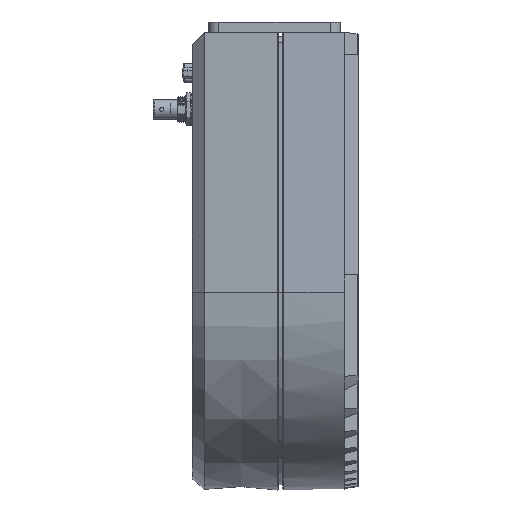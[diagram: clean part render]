
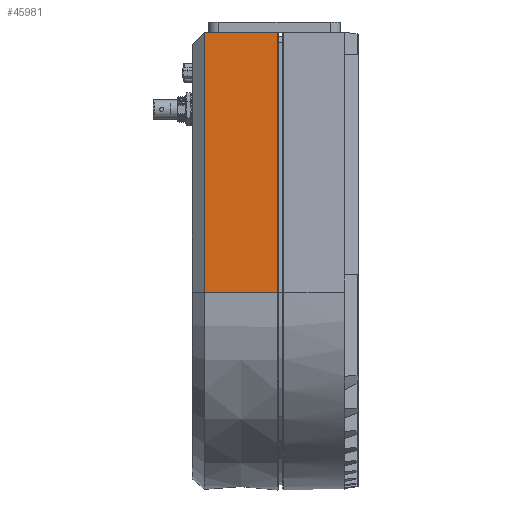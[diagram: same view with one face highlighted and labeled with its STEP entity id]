
A CAD part, left-side view. The second image highlights one B-rep face of the part: STEP entity #45981.
In plain terms, the highlighted planar face has unit normal (-1, 0.009, 0).
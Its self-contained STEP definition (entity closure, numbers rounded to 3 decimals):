
#1038 = VERTEX_POINT ( 'NONE', #4565 ) ;
#2983 = VERTEX_POINT ( 'NONE', #34796 ) ;
#4565 = CARTESIAN_POINT ( 'NONE',  ( -97.052, 76.003, 0.049 ) ) ;
#4678 = DIRECTION ( 'NONE',  ( -0.009, -1., 0. ) ) ;
#5975 = CARTESIAN_POINT ( 'NONE',  ( -97., 82., 0. ) ) ;
#6339 = ORIENTED_EDGE ( 'NONE', *, *, #38362, .T. ) ;
#7239 = ORIENTED_EDGE ( 'NONE', *, *, #16274, .T. ) ;
#7732 = LINE ( 'NONE', #29201, #12063 ) ;
#7968 = CARTESIAN_POINT ( 'NONE',  ( -97.052, 76.003, -0.002 ) ) ;
#8212 = DIRECTION ( 'NONE',  ( 0., 0., -1. ) ) ;
#11695 = ORIENTED_EDGE ( 'NONE', *, *, #42061, .F. ) ;
#11856 = EDGE_CURVE ( 'NONE', #44028, #40368, #45010, .T. ) ;
#12063 = VECTOR ( 'NONE', #14951, 1000. ) ;
#12107 = EDGE_CURVE ( 'NONE', #44028, #1038, #7732, .T. ) ;
#14053 = VERTEX_POINT ( 'NONE', #43522 ) ;
#14160 = CARTESIAN_POINT ( 'NONE',  ( -97.367, 40., 0.052 ) ) ;
#14631 = LINE ( 'NONE', #14160, #24504 ) ;
#14951 = DIRECTION ( 'NONE',  ( 0.006, 0.704, -0.71 ) ) ;
#16274 = EDGE_CURVE ( 'NONE', #2983, #40368, #14631, .T. ) ;
#16839 = DIRECTION ( 'NONE',  ( -0.009, -1., 0. ) ) ;
#18356 = CARTESIAN_POINT ( 'NONE',  ( -97., 82., -128. ) ) ;
#19629 = CARTESIAN_POINT ( 'NONE',  ( -97., 82., 0.052 ) ) ;
#20495 = ORIENTED_EDGE ( 'NONE', *, *, #11856, .F. ) ;
#22181 = DIRECTION ( 'NONE',  ( 0.009, 1., 0. ) ) ;
#24504 = VECTOR ( 'NONE', #28878, 1000. ) ;
#24649 = VECTOR ( 'NONE', #22181, 1000. ) ;
#28878 = DIRECTION ( 'NONE',  ( 0., 0., 1. ) ) ;
#29201 = CARTESIAN_POINT ( 'NONE',  ( -97.045, 76.84, -0.794 ) ) ;
#34376 = VECTOR ( 'NONE', #4678, 1000. ) ;
#34796 = CARTESIAN_POINT ( 'NONE',  ( -97.367, 40., -128. ) ) ;
#35091 = ORIENTED_EDGE ( 'NONE', *, *, #12107, .T. ) ;
#35194 = DIRECTION ( 'NONE',  ( -1., 0.009, 0. ) ) ;
#35229 = CARTESIAN_POINT ( 'NONE',  ( -97.367, 40., 0.052 ) ) ;
#35774 = AXIS2_PLACEMENT_3D ( 'NONE', #5975, #35194, #16839 ) ;
#35899 = CARTESIAN_POINT ( 'NONE',  ( -97.052, 76., 0.052 ) ) ;
#38362 = EDGE_CURVE ( 'NONE', #1038, #14053, #44721, .T. ) ;
#40253 = VECTOR ( 'NONE', #8212, 1000. ) ;
#40368 = VERTEX_POINT ( 'NONE', #35229 ) ;
#40370 = LINE ( 'NONE', #18356, #24649 ) ;
#40374 = EDGE_LOOP ( 'NONE', ( #11695, #7239, #20495, #35091, #6339 ) ) ;
#42061 = EDGE_CURVE ( 'NONE', #2983, #14053, #40370, .T. ) ;
#42253 = PLANE ( 'NONE',  #35774 ) ;
#43522 = CARTESIAN_POINT ( 'NONE',  ( -97.052, 76.044, -128. ) ) ;
#44028 = VERTEX_POINT ( 'NONE', #35899 ) ;
#44721 = LINE ( 'NONE', #7968, #40253 ) ;
#45010 = LINE ( 'NONE', #19629, #34376 ) ;
#45981 = ADVANCED_FACE ( 'NONE', ( #46075 ), #42253, .T. ) ;
#46075 = FACE_OUTER_BOUND ( 'NONE', #40374, .T. ) ;
